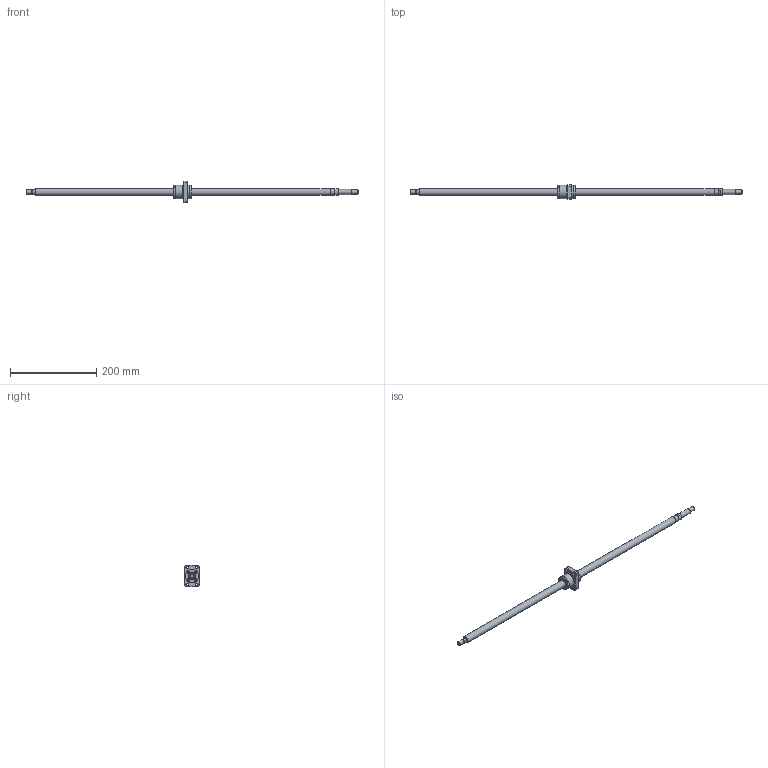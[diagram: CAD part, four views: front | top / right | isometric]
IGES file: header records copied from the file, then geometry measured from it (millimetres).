
Start section: Data from Parasolid IGES Translator 26.0.171, Copyright(c) 2006 Siemens PLM Software. All Rights Reserved.
Global section: file name: BNK1616-3.6G0+771LC5Y(3630).igs; native system: By Siemens PLM Incorporated; preprocessor: XPlus GENERIC/IGES 26.0.171; author: Noname; organization: Noname; date: 20240709.093103; units: millimetre
Bounding box: 771 x 34 x 50 mm (x, y, z)
Surface area: 49370.3 mm2 (no closed solid volume)
Topology: 0 solids, 0 shells, 139 faces, 653 edges, 596 vertices
Faces by surface type: extrusion 75, revolution 64
